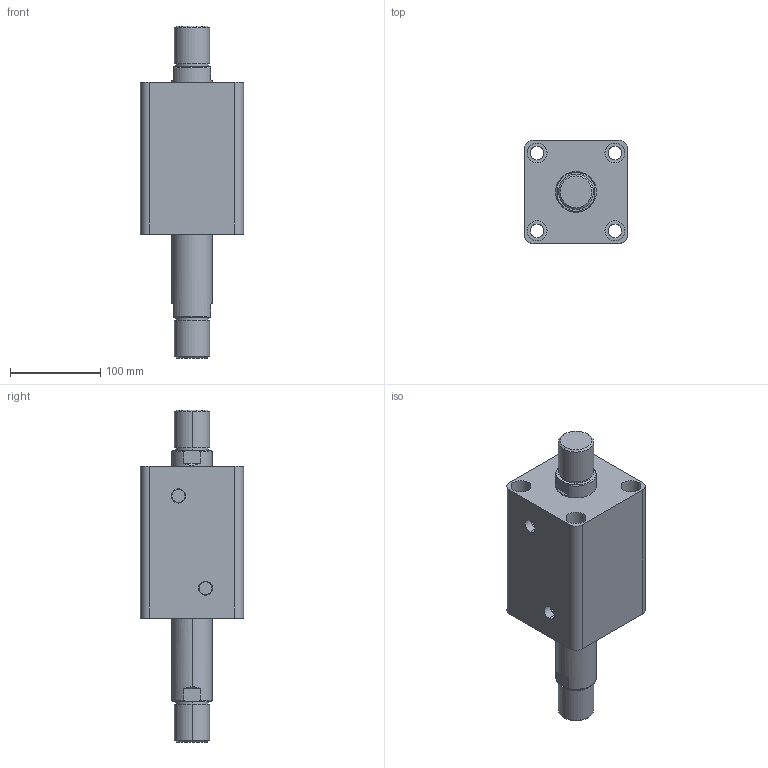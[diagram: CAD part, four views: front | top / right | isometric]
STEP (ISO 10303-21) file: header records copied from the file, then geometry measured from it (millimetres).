
FILE_DESCRIPTION (( 'STEP AP203' ), '1' );
FILE_NAME ('HTB-SW80-75W.STEP', '2019-10-07T10:25:53', ( '微软用户' ), ( '微软中国' ), 'SwSTEP 2.0', 'SolidWorks 2012', '' );
FILE_SCHEMA (( 'CONFIG_CONTROL_DESIGN' ));
Length unit declared in the file: millimetre
Products named in the file (3): HTB-SW80-75W; HTB-SW80-75W活塞杆; HTB-SW80-75掛极
Assembly tree (2 placements, depth 2):
  HTB-SW80-75W
    HTB-SW80-75掛极
    HTB-SW80-75W活塞杆
Bounding box: 114 x 114 x 367 mm (x, y, z)
Volume: 2041696.2 mm3; surface area: 236475.8 mm2
Topology: 2 solids, 2 shells, 108 faces, 240 edges, 156 vertices
Faces by surface type: cylinder 52, plane 36, torus 12, cone 8
Entity records: 3449 total; most frequent: CARTESIAN_POINT 629, DIRECTION 586, ORIENTED_EDGE 480, AXIS2_PLACEMENT_3D 249, EDGE_CURVE 240, VERTEX_POINT 156, EDGE_LOOP 138, CIRCLE 136
